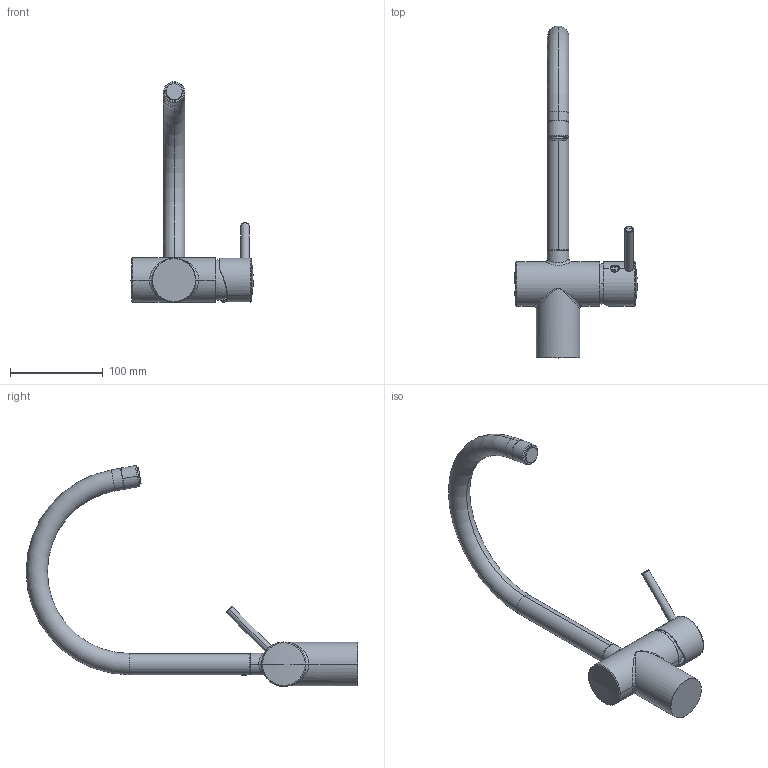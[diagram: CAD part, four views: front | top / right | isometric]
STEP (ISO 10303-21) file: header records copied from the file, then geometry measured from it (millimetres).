
FILE_DESCRIPTION((''),'2;1');
FILE_NAME('18070--00_SUB01_SW0001','2026-09-10T11:17:35',('simi1'),(''),'CREO PARAMETRIC BY PTC INC, 2022244','CREO PARAMETRIC BY PTC INC, 2022244','');
FILE_SCHEMA(('CONFIG_CONTROL_DESIGN'));
Length unit declared in the file: millimetre
Products named in the file (1): 18070--00_SUB01_SW0001
Bounding box: 132.6 x 358.32 x 238.42 mm (x, y, z)
Surface area: 81162.2 mm2 (no closed solid volume)
Topology: 0 solids, 29 shells, 272 faces, 928 edges, 659 vertices
Faces by surface type: bspline 91, cylinder 64, torus 44, plane 42, sphere 25, cone 6
Entity records: 15525 total; most frequent: CARTESIAN_POINT 8206, DIRECTION 1518, ORIENTED_EDGE 1413, EDGE_CURVE 918, AXIS2_PLACEMENT_3D 678, VERTEX_POINT 659, CIRCLE 497, EDGE_LOOP 272
